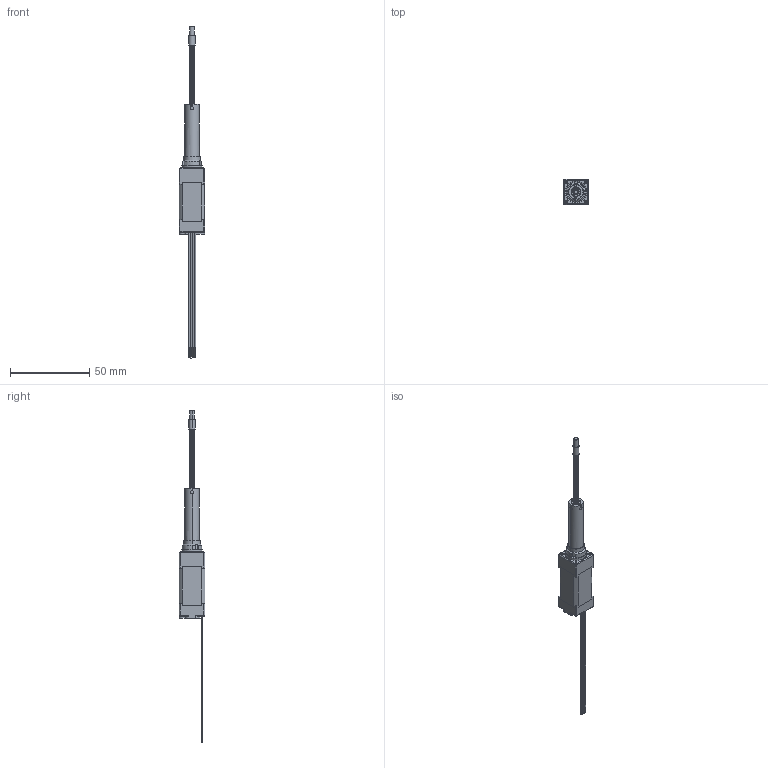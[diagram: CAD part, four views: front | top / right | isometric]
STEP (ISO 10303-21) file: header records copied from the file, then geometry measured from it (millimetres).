
FILE_DESCRIPTION (( 'STEP AP203' ), '1' );
FILE_NAME ('DS-CAPTIVE.STEP', '2025-08-27T08:11:13', ( '' ), ( '' ), 'SwSTEP 2.0', 'SolidWorks 2022', '' );
FILE_SCHEMA (( 'CONFIG_CONTROL_DESIGN' ));
Length unit declared in the file: millimetre
Products named in the file (1): DS-CAPTIVE
Bounding box: 16.15 x 16 x 209.42 mm (x, y, z)
Surface area: 6682 mm2 (no closed solid volume)
Topology: 0 solids, 25 shells, 377 faces, 1397 edges, 1023 vertices
Faces by surface type: cylinder 151, plane 145, bspline 35, torus 31, cone 13, sphere 2
Entity records: 16824 total; most frequent: CARTESIAN_POINT 5416, DIRECTION 2318, ORIENTED_EDGE 2063, EDGE_CURVE 1389, VERTEX_POINT 1023, LINE 776, VECTOR 776, AXIS2_PLACEMENT_3D 771
